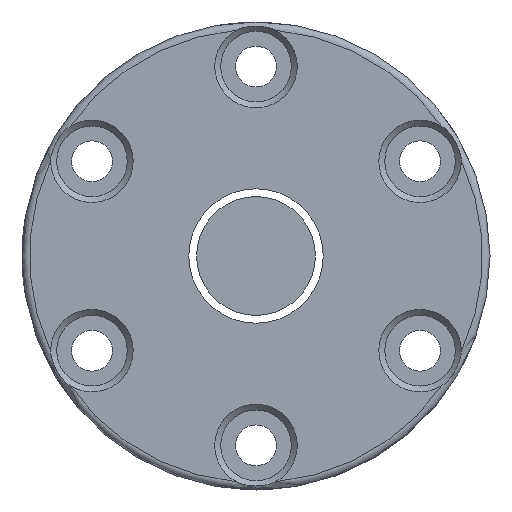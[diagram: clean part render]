
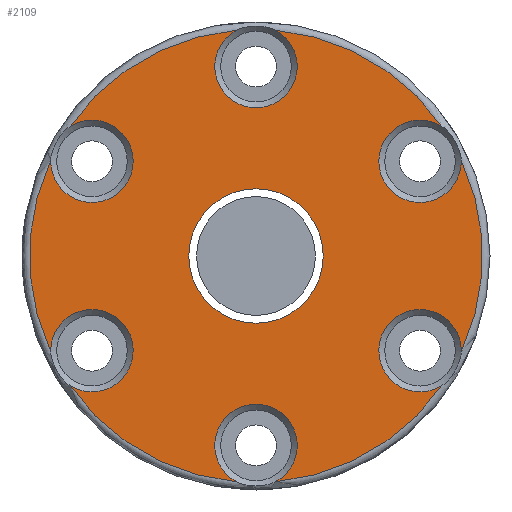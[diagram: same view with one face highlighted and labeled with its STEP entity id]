
A CAD part, left-side view. The second image highlights one B-rep face of the part: STEP entity #2109.
In plain terms, the highlighted planar face has unit normal (-1, 0, 0).
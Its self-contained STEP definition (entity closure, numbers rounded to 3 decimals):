
#29 = DIRECTION ( 'NONE',  ( 1., 0., 0. ) ) ;
#79 = VERTEX_POINT ( 'NONE', #2654 ) ;
#165 = CARTESIAN_POINT ( 'NONE',  ( -58., 0., 0. ) ) ;
#169 = AXIS2_PLACEMENT_3D ( 'NONE', #1791, #1317, #2510 ) ;
#176 = VERTEX_POINT ( 'NONE', #276 ) ;
#182 = CARTESIAN_POINT ( 'NONE',  ( -58., 2.632, 30.386 ) ) ;
#203 = ORIENTED_EDGE ( 'NONE', *, *, #1308, .T. ) ;
#219 = VERTEX_POINT ( 'NONE', #1289 ) ;
#252 = DIRECTION ( 'NONE',  ( 1., 0., 0. ) ) ;
#276 = CARTESIAN_POINT ( 'NONE',  ( -58., -24.999, 17.472 ) ) ;
#298 = VERTEX_POINT ( 'NONE', #423 ) ;
#300 = EDGE_CURVE ( 'NONE', #428, #79, #2127, .T. ) ;
#333 = CARTESIAN_POINT ( 'NONE',  ( -58., -2.632, -30.386 ) ) ;
#368 = CARTESIAN_POINT ( 'NONE',  ( -58., 0., 25.5 ) ) ;
#413 = ORIENTED_EDGE ( 'NONE', *, *, #702, .T. ) ;
#423 = CARTESIAN_POINT ( 'NONE',  ( -58., -24.999, -17.472 ) ) ;
#428 = VERTEX_POINT ( 'NONE', #2479 ) ;
#484 = VERTEX_POINT ( 'NONE', #1683 ) ;
#502 = EDGE_CURVE ( 'NONE', #79, #2971, #509, .T. ) ;
#509 = CIRCLE ( 'NONE', #2073, 30.5 ) ;
#511 = DIRECTION ( 'NONE',  ( 0., 0., 1. ) ) ;
#512 = DIRECTION ( 'NONE',  ( 0., 0., 1. ) ) ;
#529 = DIRECTION ( 'NONE',  ( 1., 0., 0. ) ) ;
#532 = CARTESIAN_POINT ( 'NONE',  ( -58., -27.631, -12.914 ) ) ;
#541 = CARTESIAN_POINT ( 'NONE',  ( -58., 0., 0. ) ) ;
#542 = ORIENTED_EDGE ( 'NONE', *, *, #2008, .T. ) ;
#545 = DIRECTION ( 'NONE',  ( 1., 0., 0. ) ) ;
#572 = AXIS2_PLACEMENT_3D ( 'NONE', #2712, #545, #1509 ) ;
#606 = DIRECTION ( 'NONE',  ( 0., 0., 1. ) ) ;
#662 = CIRCLE ( 'NONE', #2543, 9.05 ) ;
#700 = EDGE_LOOP ( 'NONE', ( #1816 ) ) ;
#702 = EDGE_CURVE ( 'NONE', #799, #428, #1365, .T. ) ;
#706 = CARTESIAN_POINT ( 'NONE',  ( -58., 0., -25.5 ) ) ;
#758 = AXIS2_PLACEMENT_3D ( 'NONE', #2118, #2798, #1111 ) ;
#771 = AXIS2_PLACEMENT_3D ( 'NONE', #541, #1295, #512 ) ;
#775 = CARTESIAN_POINT ( 'NONE',  ( -58., -2.632, 30.386 ) ) ;
#788 = ORIENTED_EDGE ( 'NONE', *, *, #1847, .T. ) ;
#799 = VERTEX_POINT ( 'NONE', #182 ) ;
#806 = ORIENTED_EDGE ( 'NONE', *, *, #2124, .T. ) ;
#821 = CIRCLE ( 'NONE', #1481, 30.5 ) ;
#913 = DIRECTION ( 'NONE',  ( 0., 0., 1. ) ) ;
#935 = EDGE_LOOP ( 'NONE', ( #542, #413, #1488, #1546, #2987, #788, #2262, #806, #203, #1399, #2074, #2862 ) ) ;
#968 = AXIS2_PLACEMENT_3D ( 'NONE', #2599, #1617, #1867 ) ;
#1008 = DIRECTION ( 'NONE',  ( 0., 0., 1. ) ) ;
#1047 = VERTEX_POINT ( 'NONE', #2347 ) ;
#1064 = DIRECTION ( 'NONE',  ( 0., 0., 1. ) ) ;
#1111 = DIRECTION ( 'NONE',  ( 0., 0., 1. ) ) ;
#1224 = CIRCLE ( 'NONE', #1276, 5.55 ) ;
#1264 = CARTESIAN_POINT ( 'NONE',  ( -58., -22.084, -12.75 ) ) ;
#1271 = CARTESIAN_POINT ( 'NONE',  ( -58., 0., 0. ) ) ;
#1276 = AXIS2_PLACEMENT_3D ( 'NONE', #368, #1836, #913 ) ;
#1289 = CARTESIAN_POINT ( 'NONE',  ( -58., -27.631, 12.914 ) ) ;
#1295 = DIRECTION ( 'NONE',  ( -1., 0., 0. ) ) ;
#1308 = EDGE_CURVE ( 'NONE', #298, #1924, #2792, .T. ) ;
#1309 = CIRCLE ( 'NONE', #2776, 5.55 ) ;
#1317 = DIRECTION ( 'NONE',  ( -1., 0., 0. ) ) ;
#1365 = CIRCLE ( 'NONE', #2483, 30.5 ) ;
#1388 = DIRECTION ( 'NONE',  ( 0., 0., 1. ) ) ;
#1399 = ORIENTED_EDGE ( 'NONE', *, *, #2097, .T. ) ;
#1446 = VERTEX_POINT ( 'NONE', #333 ) ;
#1481 = AXIS2_PLACEMENT_3D ( 'NONE', #2808, #2557, #2540 ) ;
#1488 = ORIENTED_EDGE ( 'NONE', *, *, #300, .T. ) ;
#1506 = VERTEX_POINT ( 'NONE', #775 ) ;
#1509 = DIRECTION ( 'NONE',  ( 0., 0., 1. ) ) ;
#1546 = ORIENTED_EDGE ( 'NONE', *, *, #502, .T. ) ;
#1563 = EDGE_CURVE ( 'NONE', #176, #1506, #2137, .T. ) ;
#1580 = CIRCLE ( 'NONE', #572, 5.55 ) ;
#1587 = DIRECTION ( 'NONE',  ( -1., 0., 0. ) ) ;
#1617 = DIRECTION ( 'NONE',  ( -1., 0., 0. ) ) ;
#1633 = AXIS2_PLACEMENT_3D ( 'NONE', #2078, #1587, #1388 ) ;
#1653 = EDGE_CURVE ( 'NONE', #484, #484, #662, .T. ) ;
#1683 = CARTESIAN_POINT ( 'NONE',  ( -58., 0., -9.05 ) ) ;
#1784 = CARTESIAN_POINT ( 'NONE',  ( -58., 27.631, -12.914 ) ) ;
#1791 = CARTESIAN_POINT ( 'NONE',  ( -58., 0., 0. ) ) ;
#1816 = ORIENTED_EDGE ( 'NONE', *, *, #1653, .T. ) ;
#1836 = DIRECTION ( 'NONE',  ( 1., 0., 0. ) ) ;
#1847 = EDGE_CURVE ( 'NONE', #3096, #1047, #1931, .T. ) ;
#1867 = DIRECTION ( 'NONE',  ( 0., 0., 1. ) ) ;
#1909 = CARTESIAN_POINT ( 'NONE',  ( -58., 22.084, -12.75 ) ) ;
#1924 = VERTEX_POINT ( 'NONE', #532 ) ;
#1931 = CIRCLE ( 'NONE', #169, 30.5 ) ;
#1948 = EDGE_CURVE ( 'NONE', #219, #176, #1580, .T. ) ;
#2008 = EDGE_CURVE ( 'NONE', #1506, #799, #1224, .T. ) ;
#2073 = AXIS2_PLACEMENT_3D ( 'NONE', #1271, #2729, #1064 ) ;
#2074 = ORIENTED_EDGE ( 'NONE', *, *, #1948, .T. ) ;
#2078 = CARTESIAN_POINT ( 'NONE',  ( -58., 31.5, 0. ) ) ;
#2097 = EDGE_CURVE ( 'NONE', #1924, #219, #2192, .T. ) ;
#2109 = ADVANCED_FACE ( 'NONE', ( #2113, #3034 ), #3071, .T. ) ;
#2113 = FACE_OUTER_BOUND ( 'NONE', #935, .T. ) ;
#2118 = CARTESIAN_POINT ( 'NONE',  ( -58., 22.084, 12.75 ) ) ;
#2124 = EDGE_CURVE ( 'NONE', #1446, #298, #821, .T. ) ;
#2127 = CIRCLE ( 'NONE', #758, 5.55 ) ;
#2137 = CIRCLE ( 'NONE', #771, 30.5 ) ;
#2189 = AXIS2_PLACEMENT_3D ( 'NONE', #1264, #529, #1008 ) ;
#2192 = CIRCLE ( 'NONE', #968, 30.5 ) ;
#2262 = ORIENTED_EDGE ( 'NONE', *, *, #2469, .T. ) ;
#2347 = CARTESIAN_POINT ( 'NONE',  ( -58., 2.632, -30.386 ) ) ;
#2469 = EDGE_CURVE ( 'NONE', #1047, #1446, #2825, .T. ) ;
#2479 = CARTESIAN_POINT ( 'NONE',  ( -58., 24.999, 17.472 ) ) ;
#2483 = AXIS2_PLACEMENT_3D ( 'NONE', #165, #2558, #606 ) ;
#2510 = DIRECTION ( 'NONE',  ( 0., 0., 1. ) ) ;
#2540 = DIRECTION ( 'NONE',  ( 0., 0., 1. ) ) ;
#2543 = AXIS2_PLACEMENT_3D ( 'NONE', #3050, #2796, #3075 ) ;
#2557 = DIRECTION ( 'NONE',  ( -1., 0., 0. ) ) ;
#2558 = DIRECTION ( 'NONE',  ( -1., 0., 0. ) ) ;
#2599 = CARTESIAN_POINT ( 'NONE',  ( -58., 0., 0. ) ) ;
#2606 = CARTESIAN_POINT ( 'NONE',  ( -58., 24.999, -17.472 ) ) ;
#2642 = EDGE_CURVE ( 'NONE', #2971, #3096, #1309, .T. ) ;
#2654 = CARTESIAN_POINT ( 'NONE',  ( -58., 27.631, 12.914 ) ) ;
#2712 = CARTESIAN_POINT ( 'NONE',  ( -58., -22.084, 12.75 ) ) ;
#2729 = DIRECTION ( 'NONE',  ( -1., 0., 0. ) ) ;
#2776 = AXIS2_PLACEMENT_3D ( 'NONE', #1909, #252, #511 ) ;
#2792 = CIRCLE ( 'NONE', #2189, 5.55 ) ;
#2796 = DIRECTION ( 'NONE',  ( 1., 0., 0. ) ) ;
#2798 = DIRECTION ( 'NONE',  ( 1., 0., 0. ) ) ;
#2808 = CARTESIAN_POINT ( 'NONE',  ( -58., 0., 0. ) ) ;
#2825 = CIRCLE ( 'NONE', #3077, 5.55 ) ;
#2862 = ORIENTED_EDGE ( 'NONE', *, *, #1563, .T. ) ;
#2864 = DIRECTION ( 'NONE',  ( 0., 0., 1. ) ) ;
#2971 = VERTEX_POINT ( 'NONE', #1784 ) ;
#2987 = ORIENTED_EDGE ( 'NONE', *, *, #2642, .T. ) ;
#3034 = FACE_BOUND ( 'NONE', #700, .T. ) ;
#3050 = CARTESIAN_POINT ( 'NONE',  ( -58., 0., 0. ) ) ;
#3071 = PLANE ( 'NONE',  #1633 ) ;
#3075 = DIRECTION ( 'NONE',  ( 0., 0., -1. ) ) ;
#3077 = AXIS2_PLACEMENT_3D ( 'NONE', #706, #29, #2864 ) ;
#3096 = VERTEX_POINT ( 'NONE', #2606 ) ;
